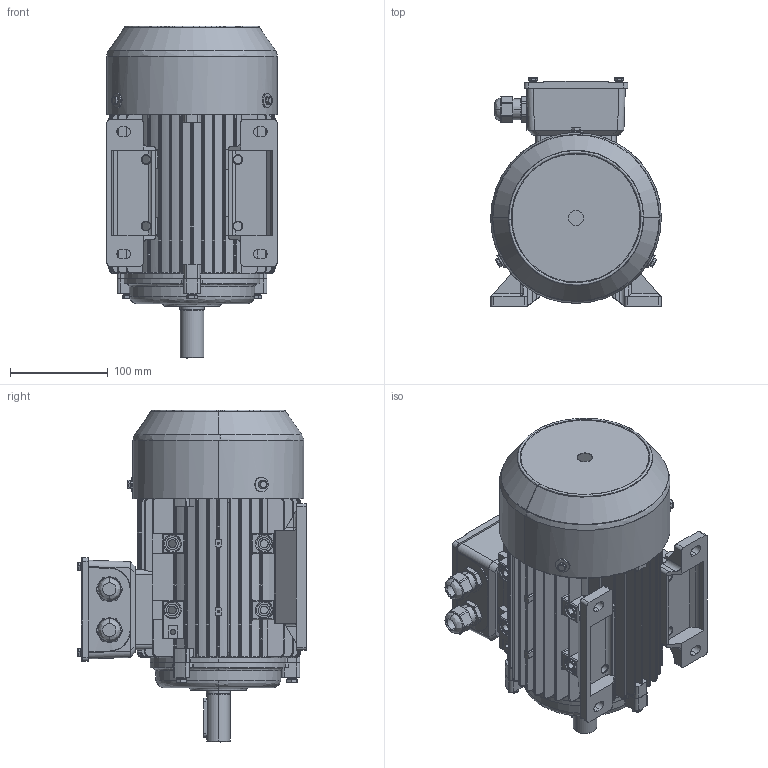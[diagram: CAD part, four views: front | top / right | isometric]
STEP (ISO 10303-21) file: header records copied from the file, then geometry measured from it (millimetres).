
FILE_DESCRIPTION (( 'STEP AP203' ), '1' );
FILE_NAME ('90LB3.STEP', '2019-11-29T11:33:13', ( '' ), ( '' ), 'SwSTEP 2.0', 'SolidWorks 2013', '' );
FILE_SCHEMA (( 'CONFIG_CONTROL_DESIGN' ));
Length unit declared in the file: millimetre
Products named in the file (1): 90LB3
Bounding box: 174.6 x 233.79 x 339.73 mm (x, y, z)
Surface area: 625350.8 mm2 (no closed solid volume)
Topology: 0 solids, 1008 shells, 1915 faces, 7687 edges, 6785 vertices
Faces by surface type: cylinder 767, plane 721, bspline 321, cone 106
Entity records: 127773 total; most frequent: CARTESIAN_POINT 68809, DIRECTION 10835, ORIENTED_EDGE 9856, EDGE_CURVE 7683, VERTEX_POINT 6785, VECTOR 3927, LINE 3927, AXIS2_PLACEMENT_3D 3454
